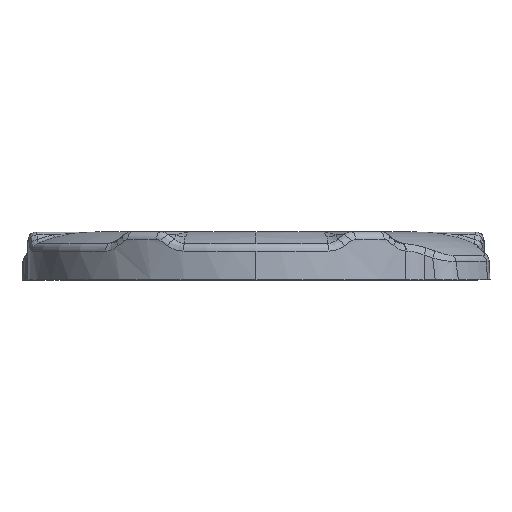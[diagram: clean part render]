
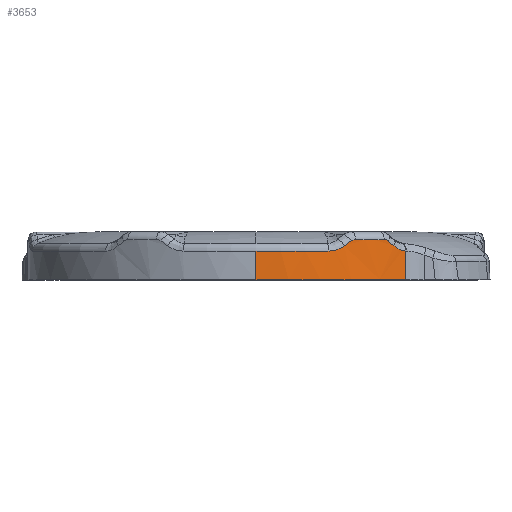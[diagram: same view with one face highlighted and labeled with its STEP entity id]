
A CAD part, top view. The second image highlights one B-rep face of the part: STEP entity #3653.
In plain terms, the highlighted cylindrical face has radius 28.58 mm (diameter 57.16 mm), a partial arc.
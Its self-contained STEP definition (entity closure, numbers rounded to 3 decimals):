
#7 = CARTESIAN_POINT ( 'NONE',  ( 0., 0., 0. ) ) ;
#53 = VERTEX_POINT ( 'NONE', #268 ) ;
#238 = EDGE_CURVE ( 'NONE', #8962, #2993, #9324, .T. ) ;
#268 = CARTESIAN_POINT ( 'NONE',  ( 18.781, 0., 21.543 ) ) ;
#321 = AXIS2_PLACEMENT_3D ( 'NONE', #1212, #1952, #2777 ) ;
#415 = CARTESIAN_POINT ( 'NONE',  ( 9.151, 3.568, 27.075 ) ) ;
#528 = CARTESIAN_POINT ( 'NONE',  ( 16.554, 4.819, 23.298 ) ) ;
#716 = VERTEX_POINT ( 'NONE', #6989 ) ;
#739 =( BOUNDED_CURVE ( )  B_SPLINE_CURVE ( 3, ( #4980, #6337, #1271, #528 ),
 .UNSPECIFIED., .F., .F. ) 
 B_SPLINE_CURVE_WITH_KNOTS ( ( 4, 4 ),
 ( 4.587, 4.618 ),
 .UNSPECIFIED. ) 
 CURVE ( )  GEOMETRIC_REPRESENTATION_ITEM ( )  RATIONAL_B_SPLINE_CURVE ( ( 1., 1., 1., 1. ) ) 
 REPRESENTATION_ITEM ( '' )  );
#826 = CARTESIAN_POINT ( 'NONE',  ( 11.9, 4.819, 25.985 ) ) ;
#1070 = CARTESIAN_POINT ( 'NONE',  ( 17.505, 4.025, 22.594 ) ) ;
#1078 = DIRECTION ( 'NONE',  ( 0., -1., 0. ) ) ;
#1183 = VECTOR ( 'NONE', #5596, 1000. ) ;
#1212 = CARTESIAN_POINT ( 'NONE',  ( 0., 3.568, 0. ) ) ;
#1271 = CARTESIAN_POINT ( 'NONE',  ( 16.797, 4.618, 23.125 ) ) ;
#1343 = DIRECTION ( 'NONE',  ( 0., 1., 0. ) ) ;
#1448 = DIRECTION ( 'NONE',  ( 0., 1., 0. ) ) ;
#1623 = CARTESIAN_POINT ( 'NONE',  ( 16.554, 4.819, 23.298 ) ) ;
#1659 = ORIENTED_EDGE ( 'NONE', *, *, #5208, .F. ) ;
#1699 = CARTESIAN_POINT ( 'NONE',  ( 0., 5., 0. ) ) ;
#1817 = CARTESIAN_POINT ( 'NONE',  ( 17.275, 4.218, 22.768 ) ) ;
#1835 = CARTESIAN_POINT ( 'NONE',  ( 12.06, 4.938, 25.911 ) ) ;
#1952 = DIRECTION ( 'NONE',  ( 0., -1., 0. ) ) ;
#2052 = EDGE_LOOP ( 'NONE', ( #1659, #8270, #9221, #4639, #4672, #5897, #7480, #2093, #5015, #7762, #8242 ) ) ;
#2093 = ORIENTED_EDGE ( 'NONE', *, *, #238, .T. ) ;
#2416 = B_SPLINE_CURVE_WITH_KNOTS ( 'NONE', 3,
 ( #7770, #7054, #4221, #9378 ),
 .UNSPECIFIED., .F., .F.,
 ( 4, 4 ),
 ( 0., 0.001 ),
 .UNSPECIFIED. ) ;
#2435 = AXIS2_PLACEMENT_3D ( 'NONE', #1699, #6087, #7435 ) ;
#2630 = CARTESIAN_POINT ( 'NONE',  ( 11.9, 4.819, 25.985 ) ) ;
#2631 = CARTESIAN_POINT ( 'NONE',  ( 10.006, 3.686, 26.772 ) ) ;
#2680 = CARTESIAN_POINT ( 'NONE',  ( 17.275, 4.218, 22.768 ) ) ;
#2777 = DIRECTION ( 'NONE',  ( 0., 0., -1. ) ) ;
#2949 = DIRECTION ( 'NONE',  ( 0., 0., 1. ) ) ;
#2993 = VERTEX_POINT ( 'NONE', #826 ) ;
#3007 = CIRCLE ( 'NONE', #7574, 28.58 ) ;
#3163 = CARTESIAN_POINT ( 'NONE',  ( 18.781, 3.57, 21.543 ) ) ;
#3177 = CARTESIAN_POINT ( 'NONE',  ( 10.798, 4.013, 26.463 ) ) ;
#3471 = EDGE_CURVE ( 'NONE', #53, #8632, #4959, .T. ) ;
#3653 = ADVANCED_FACE ( 'NONE', ( #4495 ), #9195, .T. ) ;
#4017 = CARTESIAN_POINT ( 'NONE',  ( 18.519, 3.583, 21.771 ) ) ;
#4028 = CARTESIAN_POINT ( 'NONE',  ( 11.628, 4.618, 26.109 ) ) ;
#4140 = CARTESIAN_POINT ( 'NONE',  ( 17.748, 3.871, 22.404 ) ) ;
#4221 = CARTESIAN_POINT ( 'NONE',  ( 16.24, 5., 23.519 ) ) ;
#4495 = FACE_OUTER_BOUND ( 'NONE', #2052, .T. ) ;
#4568 = VERTEX_POINT ( 'NONE', #6946 ) ;
#4639 = ORIENTED_EDGE ( 'NONE', *, *, #5880, .T. ) ;
#4672 = ORIENTED_EDGE ( 'NONE', *, *, #5534, .T. ) ;
#4795 = CARTESIAN_POINT ( 'NONE',  ( 11.08, 4.218, 26.345 ) ) ;
#4875 = CARTESIAN_POINT ( 'NONE',  ( 18.259, 3.649, 21.989 ) ) ;
#4959 = LINE ( 'NONE', #9154, #1183 ) ;
#4980 = CARTESIAN_POINT ( 'NONE',  ( 17.275, 4.218, 22.768 ) ) ;
#4998 = EDGE_CURVE ( 'NONE', #4568, #5263, #5536, .T. ) ;
#5015 = ORIENTED_EDGE ( 'NONE', *, *, #5461, .T. ) ;
#5208 = EDGE_CURVE ( 'NONE', #7460, #716, #8301, .T. ) ;
#5263 = VERTEX_POINT ( 'NONE', #9475 ) ;
#5433 = CARTESIAN_POINT ( 'NONE',  ( 9.498, 3.584, 26.956 ) ) ;
#5461 = EDGE_CURVE ( 'NONE', #2993, #4568, #7536, .T. ) ;
#5488 = CARTESIAN_POINT ( 'NONE',  ( 11.9, 4.819, 25.985 ) ) ;
#5534 = EDGE_CURVE ( 'NONE', #9246, #8574, #739, .T. ) ;
#5536 = B_SPLINE_CURVE_WITH_KNOTS ( 'NONE', 3,
 ( #7546, #3177, #8290, #2631, #8490, #5433, #6221, #415 ),
 .UNSPECIFIED., .F., .F.,
 ( 4, 2, 2, 4 ),
 ( 0., 0.001, 0.002, 0.002 ),
 .UNSPECIFIED. ) ;
#5576 = EDGE_CURVE ( 'NONE', #5263, #716, #8874, .T. ) ;
#5596 = DIRECTION ( 'NONE',  ( 0., 1., 0. ) ) ;
#5880 = EDGE_CURVE ( 'NONE', #8632, #9246, #9101, .T. ) ;
#5897 = ORIENTED_EDGE ( 'NONE', *, *, #8392, .T. ) ;
#6087 = DIRECTION ( 'NONE',  ( 0., -1., 0. ) ) ;
#6111 = CARTESIAN_POINT ( 'NONE',  ( 0., 0., 0. ) ) ;
#6221 = CARTESIAN_POINT ( 'NONE',  ( 9.325, 3.568, 27.016 ) ) ;
#6337 = CARTESIAN_POINT ( 'NONE',  ( 17.037, 4.418, 22.948 ) ) ;
#6767 = CIRCLE ( 'NONE', #2435, 28.58 ) ;
#6946 = CARTESIAN_POINT ( 'NONE',  ( 11.08, 4.218, 26.345 ) ) ;
#6989 = CARTESIAN_POINT ( 'NONE',  ( 0., 3.568, 28.58 ) ) ;
#7023 = CARTESIAN_POINT ( 'NONE',  ( 12.439, 5., 25.731 ) ) ;
#7054 = CARTESIAN_POINT ( 'NONE',  ( 16.41, 4.938, 23.4 ) ) ;
#7145 = VECTOR ( 'NONE', #1343, 1000. ) ;
#7179 = CARTESIAN_POINT ( 'NONE',  ( 0., 0., 28.58 ) ) ;
#7288 = EDGE_CURVE ( 'NONE', #53, #7460, #3007, .T. ) ;
#7422 = VERTEX_POINT ( 'NONE', #8602 ) ;
#7435 = DIRECTION ( 'NONE',  ( 0., 0., -1. ) ) ;
#7460 = VERTEX_POINT ( 'NONE', #7890 ) ;
#7480 = ORIENTED_EDGE ( 'NONE', *, *, #8114, .T. ) ;
#7536 =( BOUNDED_CURVE ( )  B_SPLINE_CURVE ( 3, ( #5488, #4028, #7737, #4795 ),
 .UNSPECIFIED., .F., .F. ) 
 B_SPLINE_CURVE_WITH_KNOTS ( ( 4, 4 ),
 ( 1.665, 1.696 ),
 .UNSPECIFIED. ) 
 CURVE ( )  GEOMETRIC_REPRESENTATION_ITEM ( )  RATIONAL_B_SPLINE_CURVE ( ( 1., 1., 1., 1. ) ) 
 REPRESENTATION_ITEM ( '' )  );
#7546 = CARTESIAN_POINT ( 'NONE',  ( 11.08, 4.218, 26.345 ) ) ;
#7574 = AXIS2_PLACEMENT_3D ( 'NONE', #6111, #1078, #8409 ) ;
#7709 = CARTESIAN_POINT ( 'NONE',  ( 12.248, 5., 25.823 ) ) ;
#7737 = CARTESIAN_POINT ( 'NONE',  ( 11.355, 4.418, 26.229 ) ) ;
#7762 = ORIENTED_EDGE ( 'NONE', *, *, #4998, .T. ) ;
#7770 = CARTESIAN_POINT ( 'NONE',  ( 16.554, 4.819, 23.298 ) ) ;
#7890 = CARTESIAN_POINT ( 'NONE',  ( 0., 0., 28.58 ) ) ;
#8114 = EDGE_CURVE ( 'NONE', #7422, #8962, #6767, .T. ) ;
#8242 = ORIENTED_EDGE ( 'NONE', *, *, #5576, .T. ) ;
#8258 = AXIS2_PLACEMENT_3D ( 'NONE', #7, #1448, #2949 ) ;
#8270 = ORIENTED_EDGE ( 'NONE', *, *, #7288, .F. ) ;
#8290 = CARTESIAN_POINT ( 'NONE',  ( 10.495, 3.854, 26.586 ) ) ;
#8301 = LINE ( 'NONE', #7179, #7145 ) ;
#8392 = EDGE_CURVE ( 'NONE', #8574, #7422, #2416, .T. ) ;
#8409 = DIRECTION ( 'NONE',  ( 0., 0., 1. ) ) ;
#8490 = CARTESIAN_POINT ( 'NONE',  ( 9.838, 3.642, 26.834 ) ) ;
#8574 = VERTEX_POINT ( 'NONE', #1623 ) ;
#8602 = CARTESIAN_POINT ( 'NONE',  ( 16.064, 5., 23.638 ) ) ;
#8632 = VERTEX_POINT ( 'NONE', #3163 ) ;
#8675 = CARTESIAN_POINT ( 'NONE',  ( 12.439, 5., 25.731 ) ) ;
#8874 = CIRCLE ( 'NONE', #321, 28.58 ) ;
#8962 = VERTEX_POINT ( 'NONE', #8675 ) ;
#9101 = B_SPLINE_CURVE_WITH_KNOTS ( 'NONE', 3,
 ( #9162, #4017, #4875, #4140, #1070, #1817 ),
 .UNSPECIFIED., .F., .F.,
 ( 4, 2, 4 ),
 ( 0., 0.001, 0.002 ),
 .UNSPECIFIED. ) ;
#9154 = CARTESIAN_POINT ( 'NONE',  ( 18.781, 0., 21.543 ) ) ;
#9162 = CARTESIAN_POINT ( 'NONE',  ( 18.781, 3.57, 21.543 ) ) ;
#9195 = CYLINDRICAL_SURFACE ( 'NONE', #8258, 28.58 ) ;
#9221 = ORIENTED_EDGE ( 'NONE', *, *, #3471, .T. ) ;
#9246 = VERTEX_POINT ( 'NONE', #2680 ) ;
#9324 = B_SPLINE_CURVE_WITH_KNOTS ( 'NONE', 3,
 ( #7023, #7709, #1835, #2630 ),
 .UNSPECIFIED., .F., .F.,
 ( 4, 4 ),
 ( 0., 0.001 ),
 .UNSPECIFIED. ) ;
#9378 = CARTESIAN_POINT ( 'NONE',  ( 16.064, 5., 23.638 ) ) ;
#9475 = CARTESIAN_POINT ( 'NONE',  ( 9.151, 3.568, 27.075 ) ) ;
